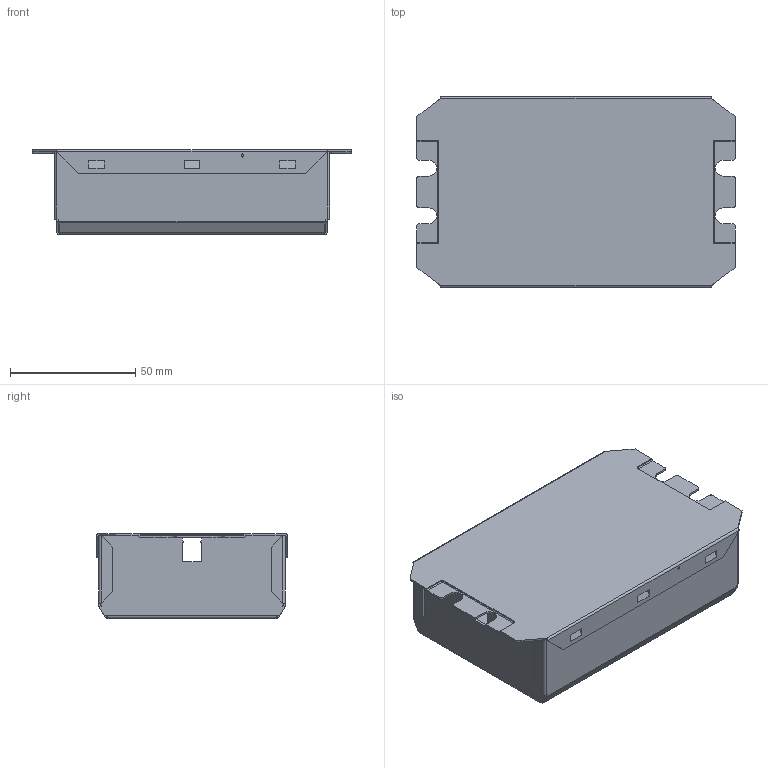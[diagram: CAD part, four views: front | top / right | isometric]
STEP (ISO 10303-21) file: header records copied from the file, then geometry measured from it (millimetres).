
FILE_DESCRIPTION (( 'STEP AP203' ), '1' );
FILE_NAME ('W2.STEP', '2015-09-02T03:25:44', ( '·L³n¥Î¤á' ), ( '·L³n¤¤°ê' ), 'SwSTEP 2.0', 'SolidWorks 2010', '' );
FILE_SCHEMA (( 'CONFIG_CONTROL_DESIGN' ));
Length unit declared in the file: millimetre
Products named in the file (3): W2; 511-00001290; 511-00004530
Assembly tree (2 placements, depth 2):
  W2
    511-00001290
    511-00004530
Bounding box: 127 x 76.15 x 33.81 mm (x, y, z)
Volume: 24001 mm3; surface area: 62144.1 mm2
Topology: 3 solids, 3 shells, 360 faces, 904 edges, 552 vertices
Faces by surface type: plane 266, cylinder 70, torus 20, cone 4
Entity records: 10867 total; most frequent: CARTESIAN_POINT 1833, ORIENTED_EDGE 1808, DIRECTION 1806, EDGE_CURVE 904, LINE 724, VECTOR 724, VERTEX_POINT 552, AXIS2_PLACEMENT_3D 541
